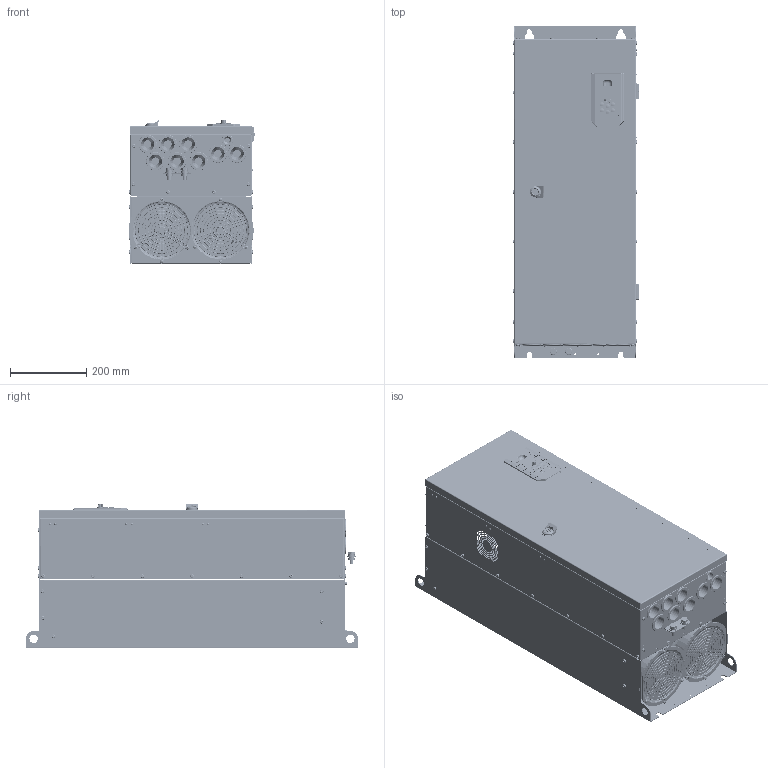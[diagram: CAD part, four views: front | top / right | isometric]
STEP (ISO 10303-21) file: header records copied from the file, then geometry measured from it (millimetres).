
FILE_DESCRIPTION((''),'2;1');
FILE_NAME('D7-DRIVE_REV00_ASM','2022-03-02T10:28:23',('wendong.luo'),(''),'CREO PARAMETRIC BY PTC INC, 2018100','CREO PARAMETRIC BY PTC INC, 2018100','');
FILE_SCHEMA(('CONFIG_CONTROL_DESIGN','GEOMETRIC_VALIDATION_PROPERTIES_MIM'));
Products named in the file (64): D7-MECHANICAL-PART; M0100062; M0100062_ASM; M0104027; M0104016; M0104018; M0104017; M0203007; EXTERNAL_KEYPAD_ASM; M0204019; 1092130761; 1092130763; 1092130764; MS705-1B; M0204017_ASM; M0204018; M0202041; D7-DOOR-ASM_ASM; M0202034; RIVETING-NUT-4_; P_FHS_5_12_; M0202002; M3-SPRING_FLAT; M3-WASHER; M0202002_ASM; M0202007; M0100015; M0202003; M10-25; M10-SPRING_FLAT; M10-WASHER; M0202036_ASM; M12-25; M12-SPRING_FLAT; M12-WASHER; M0202037_ASM; M0202010; M0202040; M0202014; D7-FASTEN_ASM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
Assembly tree (193 placements, depth 4):
  D7-DRIVE_REV00_ASM
    D7-MECHANICAL-PART
    D7-DOOR-ASM_ASM
      M0100062_ASM
        M0100062
      M0104027
      EXTERNAL_KEYPAD_ASM
        M0104016
        M0104018
        M0104017
        M0203007
      M0204019
      M0204017_ASM
        1092130761
        1092130763
        1092130764
        MS705-1B
      M0204018  x4
      M0202041  x8
    D7-FASTEN_ASM
      M0202034  x36
      RIVETING-NUT-4_  x10
      P_FHS_5_12_  x6
      M0202002_ASM  x2
        M0202002
        M3-SPRING_FLAT
        M3-WASHER
      M0202007  x28
      M0100015  x2
      M0202003  x4
      M0202036_ASM  x10
        M10-25
        M10-SPRING_FLAT
        M10-WASHER
      M0202037_ASM  x3
        M12-25
        M12-SPRING_FLAT
        M12-WASHER
      M0202010  x6
      M0202040  x8
      M0202014  x4
    M0204012  x8
    M0204013
    E0400077  x3
    M0204022  x2
    M0204014
    17251_ASM_ASM  x2
      PRT0001_7
      17251-5YE-2B_1
    M0200005  x2
    M0104030
    CU_NEW_ASM
      M0104033
      E0100084_ASM
        E0100084
        E0400023
        E0400008
        E0400009  x2
        E0400001
        E0400011
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Bounding box: 332.5 x 870 x 379 mm (x, y, z)
Volume: 4323889.8 mm3; surface area: 4372226.1 mm2
Topology: 348 solids, 398 shells, 30736 faces, 80653 edges, 51684 vertices
Faces by surface type: plane 15082, cylinder 7205, bspline 3943, extrusion 1877, torus 1304, cone 1060, sphere 265
Entity records: 704035 total; most frequent: CARTESIAN_POINT 194330, ORIENTED_EDGE 84306, DIRECTION 70162, EDGE_CURVE 42202, PRESENTATION_STYLE_ASSIGNMENT 34904, STYLED_ITEM 33261, CURVE_STYLE 32693, VERTEX_POINT 27485
